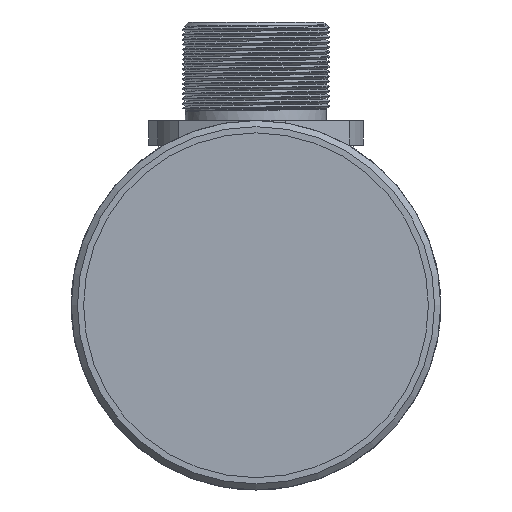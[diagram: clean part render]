
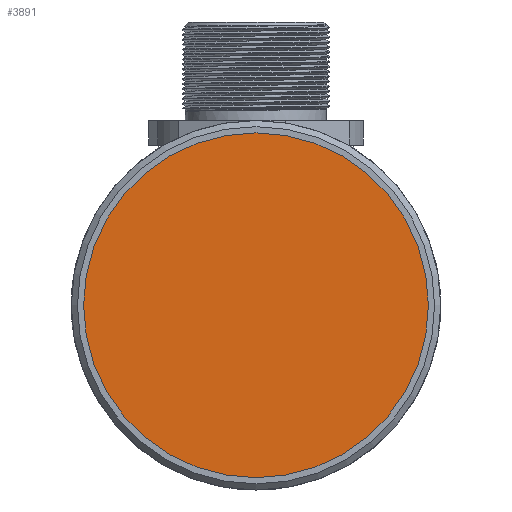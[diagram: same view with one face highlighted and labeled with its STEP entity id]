
A CAD part, left-side view. The second image highlights one B-rep face of the part: STEP entity #3891.
In plain terms, the highlighted planar face has unit normal (-1, 0, 0).
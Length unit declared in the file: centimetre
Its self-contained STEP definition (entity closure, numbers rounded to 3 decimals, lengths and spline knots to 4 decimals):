
#848=CIRCLE('',#4143,1.4);
#1036=VERTEX_POINT('',#5590);
#1906=EDGE_CURVE('',#1036,#1036,#848,.T.);
#2550=ORIENTED_EDGE('',*,*,#1906,.T.);
#3353=EDGE_LOOP('',(#2550));
#3625=FACE_BOUND('',#3353,.T.);
#3891=ADVANCED_FACE('',(#3625),#17166,.T.);
#4143=AXIS2_PLACEMENT_3D('',#5589,#4566,#4567);
#4145=AXIS2_PLACEMENT_3D('',#5593,#4570,$);
#4566=DIRECTION('',(-1.,0.,0.));
#4567=DIRECTION('',(0.,0.,1.4));
#4570=DIRECTION('',(-1.,0.,0.));
#5589=CARTESIAN_POINT('',(0.1,0.,0.));
#5590=CARTESIAN_POINT('',(0.1,0.,1.4));
#5593=CARTESIAN_POINT('',(0.1,0.,0.));
#17166=PLANE('',#4145);
